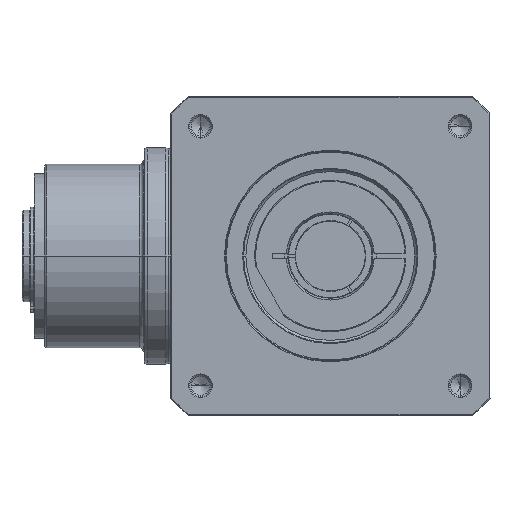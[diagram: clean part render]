
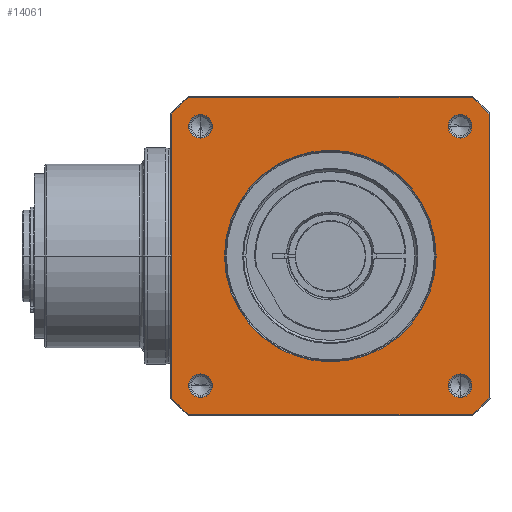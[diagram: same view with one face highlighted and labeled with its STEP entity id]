
A CAD part, front view. The second image highlights one B-rep face of the part: STEP entity #14061.
In plain terms, the highlighted planar face has unit normal (0, -1, 0) as drawn and (0, 0, 1) by its records, which use the part's own axes.
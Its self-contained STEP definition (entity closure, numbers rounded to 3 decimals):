
#12946=DIRECTION('',(1.,0.,0.));
#12947=VECTOR('',#12946,154.58);
#12948=CARTESIAN_POINT('',(-77.29,-86.5,
82.));
#12949=LINE('',#12948,#12947);
#12950=CARTESIAN_POINT('',(0.,0.,82.));
#12951=DIRECTION('',(0.,0.,1.));
#12952=DIRECTION('',(-0.746,-0.666,0.));
#12953=AXIS2_PLACEMENT_3D('',#12950,#12951,#12952);
#12955=DIRECTION('',(0.,-1.,0.));
#12956=VECTOR('',#12955,154.58);
#12957=CARTESIAN_POINT('',(-86.5,77.29,
82.));
#12958=LINE('',#12957,#12956);
#12959=CARTESIAN_POINT('',(0.,0.,82.));
#12960=DIRECTION('',(0.,0.,1.));
#12961=DIRECTION('',(-0.666,0.746,0.));
#12962=AXIS2_PLACEMENT_3D('',#12959,#12960,#12961);
#12964=DIRECTION('',(-1.,0.,0.));
#12965=VECTOR('',#12964,154.58);
#12966=CARTESIAN_POINT('',(77.29,86.5,82.));
#12967=LINE('',#12966,#12965);
#12968=CARTESIAN_POINT('',(0.,0.,82.));
#12969=DIRECTION('',(0.,0.,1.));
#12970=DIRECTION('',(0.746,0.666,0.));
#12971=AXIS2_PLACEMENT_3D('',#12968,#12969,#12970);
#12973=DIRECTION('',(0.,1.,0.));
#12974=VECTOR('',#12973,154.58);
#12975=CARTESIAN_POINT('',(86.5,-77.29,
82.));
#12976=LINE('',#12975,#12974);
#12977=CARTESIAN_POINT('',(0.,0.,82.));
#12978=DIRECTION('',(0.,0.,1.));
#12979=DIRECTION('',(0.666,-0.746,0.));
#12980=AXIS2_PLACEMENT_3D('',#12977,#12978,#12979);
#12982=CARTESIAN_POINT('',(0.,0.,
82.));
#12983=DIRECTION('',(0.,0.,-1.));
#12984=DIRECTION('',(0.,-1.,0.));
#12985=AXIS2_PLACEMENT_3D('',#12982,#12983,#12984);
#12987=CARTESIAN_POINT('',(0.,0.,
82.));
#12988=DIRECTION('',(0.,0.,-1.));
#12989=DIRECTION('',(0.,1.,0.));
#12990=AXIS2_PLACEMENT_3D('',#12987,#12988,#12989);
#12992=CARTESIAN_POINT('',(70.711,70.711,82.));
#12993=DIRECTION('',(0.,0.,-1.));
#12994=DIRECTION('',(1.,0.,0.));
#12995=AXIS2_PLACEMENT_3D('',#12992,#12993,#12994);
#12997=CARTESIAN_POINT('',(70.711,70.711,82.));
#12998=DIRECTION('',(0.,0.,-1.));
#12999=DIRECTION('',(-1.,0.,0.));
#13000=AXIS2_PLACEMENT_3D('',#12997,#12998,#12999);
#13002=CARTESIAN_POINT('',(-70.711,70.711,
82.));
#13003=DIRECTION('',(0.,0.,-1.));
#13004=DIRECTION('',(0.,1.,0.));
#13005=AXIS2_PLACEMENT_3D('',#13002,#13003,#13004);
#13007=CARTESIAN_POINT('',(-70.711,70.711,
82.));
#13008=DIRECTION('',(0.,0.,-1.));
#13009=DIRECTION('',(0.,-1.,0.));
#13010=AXIS2_PLACEMENT_3D('',#13007,#13008,#13009);
#13012=CARTESIAN_POINT('',(-70.711,-70.711,
82.));
#13013=DIRECTION('',(0.,0.,-1.));
#13014=DIRECTION('',(-1.,0.,0.));
#13015=AXIS2_PLACEMENT_3D('',#13012,#13013,#13014);
#13017=CARTESIAN_POINT('',(-70.711,-70.711,
82.));
#13018=DIRECTION('',(0.,0.,-1.));
#13019=DIRECTION('',(1.,0.,0.));
#13020=AXIS2_PLACEMENT_3D('',#13017,#13018,#13019);
#13022=CARTESIAN_POINT('',(70.711,-70.711,
82.));
#13023=DIRECTION('',(0.,0.,-1.));
#13024=DIRECTION('',(0.,-1.,0.));
#13025=AXIS2_PLACEMENT_3D('',#13022,#13023,#13024);
#13027=CARTESIAN_POINT('',(70.711,-70.711,
82.));
#13028=DIRECTION('',(0.,0.,-1.));
#13029=DIRECTION('',(0.,1.,0.));
#13030=AXIS2_PLACEMENT_3D('',#13027,#13028,#13029);
#13804=CARTESIAN_POINT('',(77.161,70.711,82.));
#13805=CARTESIAN_POINT('',(64.261,70.711,82.));
#13806=VERTEX_POINT('',#13804);
#13807=VERTEX_POINT('',#13805);
#13830=CARTESIAN_POINT('',(-70.711,77.161,
82.));
#13831=CARTESIAN_POINT('',(-70.711,64.261,
82.));
#13832=VERTEX_POINT('',#13830);
#13833=VERTEX_POINT('',#13831);
#13838=CARTESIAN_POINT('',(-77.161,-70.711,
82.));
#13839=CARTESIAN_POINT('',(-64.261,-70.711,
82.));
#13840=VERTEX_POINT('',#13838);
#13841=VERTEX_POINT('',#13839);
#13846=CARTESIAN_POINT('',(70.711,-77.161,
82.));
#13847=CARTESIAN_POINT('',(70.711,-64.261,
82.));
#13848=VERTEX_POINT('',#13846);
#13849=VERTEX_POINT('',#13847);
#13858=CARTESIAN_POINT('',(-77.29,-86.5,
82.));
#13859=CARTESIAN_POINT('',(77.29,-86.5,
82.));
#13860=VERTEX_POINT('',#13858);
#13861=VERTEX_POINT('',#13859);
#13864=CARTESIAN_POINT('',(86.5,-77.29,82.));
#13865=VERTEX_POINT('',#13864);
#13868=CARTESIAN_POINT('',(86.5,77.29,82.));
#13869=VERTEX_POINT('',#13868);
#13872=CARTESIAN_POINT('',(77.29,86.5,82.));
#13873=VERTEX_POINT('',#13872);
#13876=CARTESIAN_POINT('',(-77.29,86.5,
82.));
#13877=VERTEX_POINT('',#13876);
#13878=CARTESIAN_POINT('',(-86.5,77.29,82.));
#13879=VERTEX_POINT('',#13878);
#13884=CARTESIAN_POINT('',(-86.5,-77.29,
82.));
#13885=VERTEX_POINT('',#13884);
#13918=CARTESIAN_POINT('',(0.,-57.65,
82.));
#13919=CARTESIAN_POINT('',(0.,57.65,82.));
#13920=VERTEX_POINT('',#13918);
#13921=VERTEX_POINT('',#13919);
#14009=CARTESIAN_POINT('',(0.,0.,82.));
#14010=DIRECTION('',(0.,0.,1.));
#14011=DIRECTION('',(1.,0.,0.));
#14012=AXIS2_PLACEMENT_3D('',#14009,#14010,#14011);
#14013=PLANE('',#14012);
#14015=ORIENTED_EDGE('',*,*,#14014,.F.);
#14017=ORIENTED_EDGE('',*,*,#14016,.F.);
#14019=ORIENTED_EDGE('',*,*,#14018,.F.);
#14021=ORIENTED_EDGE('',*,*,#14020,.F.);
#14023=ORIENTED_EDGE('',*,*,#14022,.F.);
#14025=ORIENTED_EDGE('',*,*,#14024,.F.);
#14027=ORIENTED_EDGE('',*,*,#14026,.F.);
#14029=ORIENTED_EDGE('',*,*,#14028,.F.);
#14030=EDGE_LOOP('',(#14015,#14017,#14019,#14021,#14023,#14025,#14027,#14029));
#14031=FACE_OUTER_BOUND('',#14030,.F.);
#14033=ORIENTED_EDGE('',*,*,#14032,.F.);
#14035=ORIENTED_EDGE('',*,*,#14034,.F.);
#14036=EDGE_LOOP('',(#14033,#14035));
#14037=FACE_BOUND('',#14036,.F.);
#14039=ORIENTED_EDGE('',*,*,#14038,.F.);
#14041=ORIENTED_EDGE('',*,*,#14040,.F.);
#14042=EDGE_LOOP('',(#14039,#14041));
#14043=FACE_BOUND('',#14042,.F.);
#14045=ORIENTED_EDGE('',*,*,#14044,.F.);
#14046=ORIENTED_EDGE('',*,*,#13999,.F.);
#14047=EDGE_LOOP('',(#14045,#14046));
#14048=FACE_BOUND('',#14047,.F.);
#14050=ORIENTED_EDGE('',*,*,#14049,.F.);
#14052=ORIENTED_EDGE('',*,*,#14051,.F.);
#14053=EDGE_LOOP('',(#14050,#14052));
#14054=FACE_BOUND('',#14053,.F.);
#14056=ORIENTED_EDGE('',*,*,#14055,.F.);
#14058=ORIENTED_EDGE('',*,*,#14057,.F.);
#14059=EDGE_LOOP('',(#14056,#14058));
#14060=FACE_BOUND('',#14059,.F.);
#14061=ADVANCED_FACE('',(#14031,#14037,#14043,#14048,#14054,#14060),#14013,.T.);
#12954=CIRCLE('',#12953,116.);
#12963=CIRCLE('',#12962,116.);
#12972=CIRCLE('',#12971,116.);
#12981=CIRCLE('',#12980,116.);
#12986=CIRCLE('',#12985,57.65);
#12991=CIRCLE('',#12990,57.65);
#12996=CIRCLE('',#12995,6.45);
#13001=CIRCLE('',#13000,6.45);
#13006=CIRCLE('',#13005,6.45);
#13011=CIRCLE('',#13010,6.45);
#13016=CIRCLE('',#13015,6.45);
#13021=CIRCLE('',#13020,6.45);
#13026=CIRCLE('',#13025,6.45);
#13031=CIRCLE('',#13030,6.45);
#13999=EDGE_CURVE('',#13833,#13832,#13011,.T.);
#14014=EDGE_CURVE('',#13860,#13861,#12949,.T.);
#14016=EDGE_CURVE('',#13885,#13860,#12954,.T.);
#14018=EDGE_CURVE('',#13879,#13885,#12958,.T.);
#14020=EDGE_CURVE('',#13877,#13879,#12963,.T.);
#14022=EDGE_CURVE('',#13873,#13877,#12967,.T.);
#14024=EDGE_CURVE('',#13869,#13873,#12972,.T.);
#14026=EDGE_CURVE('',#13865,#13869,#12976,.T.);
#14028=EDGE_CURVE('',#13861,#13865,#12981,.T.);
#14032=EDGE_CURVE('',#13920,#13921,#12986,.T.);
#14034=EDGE_CURVE('',#13921,#13920,#12991,.T.);
#14038=EDGE_CURVE('',#13806,#13807,#12996,.T.);
#14040=EDGE_CURVE('',#13807,#13806,#13001,.T.);
#14044=EDGE_CURVE('',#13832,#13833,#13006,.T.);
#14049=EDGE_CURVE('',#13840,#13841,#13016,.T.);
#14051=EDGE_CURVE('',#13841,#13840,#13021,.T.);
#14055=EDGE_CURVE('',#13848,#13849,#13026,.T.);
#14057=EDGE_CURVE('',#13849,#13848,#13031,.T.);
